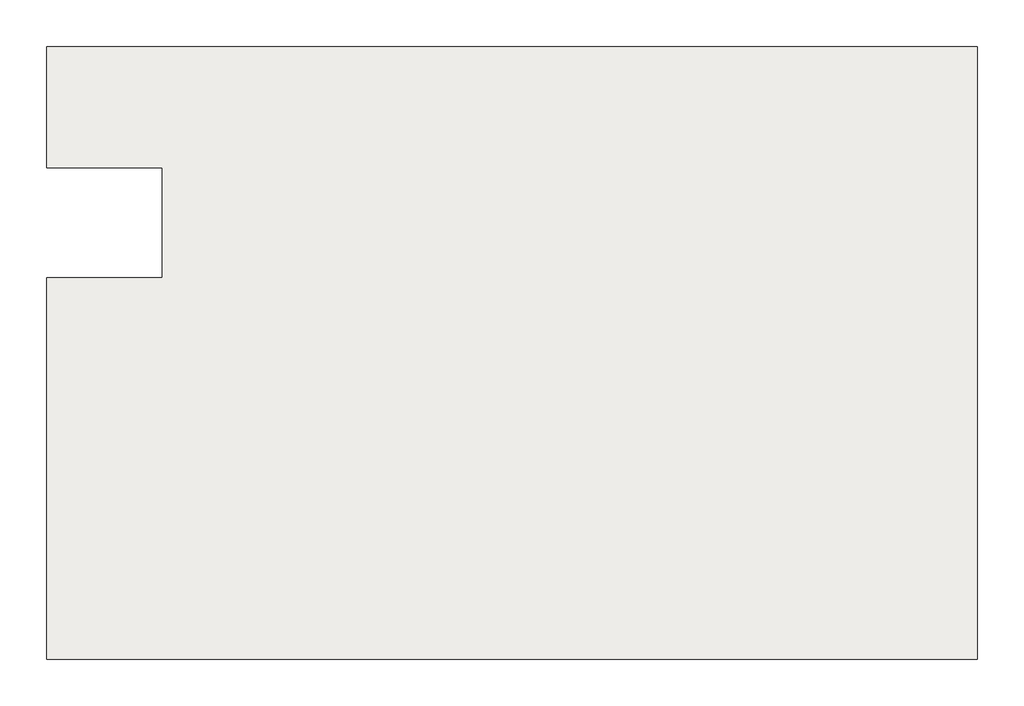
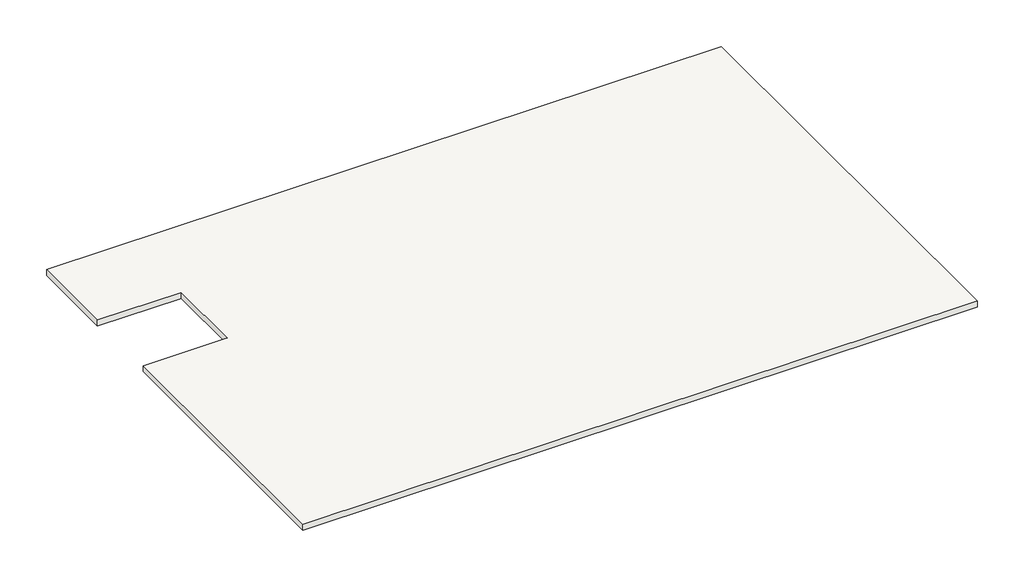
# One storey: 1 slab.
"""IFC4 building model written with IfcOpenShell, lengths in millimetres."""

from ifc_helpers import new_model, si_unit, frame, origin, place, context, project, spatial, polyline, outline, extrude, element, save

model = new_model("IFC4")

# Units and contexts
model_context = context("Model", 3, world=origin())
ifc_project = project(units=[si_unit("LENGTHUNIT", "METRE", prefix="MILLI")], contexts=[model_context])

# Site, building, storey
site = spatial("IfcSite", under=ifc_project)
building = spatial("IfcBuilding", under=site)
storey = spatial("IfcBuildingStorey", under=building, Name="标高 2", Elevation=6000.0)

# Slab
placement = place(None, origin())
element("IfcSlab", 1, ObjectType="常规 - 300mm", at=placement, inside=storey, context=model_context, shape_type="SweptSolid", body=[
    extrude(outline(polyline([(-12831.5860739, 4904.04275), (19368.4139261, 4904.04275), (19368.4139261, -16295.95725), (-12831.5860739, -16295.95725), (-12831.5860739, -3095.95725), (-8831.5860739, -3095.95725), (-8831.5860739, 704.04275), (-12831.5860739, 704.04275), (-12831.5860739, 4904.04275)])), frame((0.0, 0.0, 5700.0), z_axis=(0.0, 0.0, 1.0), x_axis=(1.0, 0.0, 0.0)), (0.0, 0.0, 1.0), 300.0),
])

save(model, "model.ifc")
